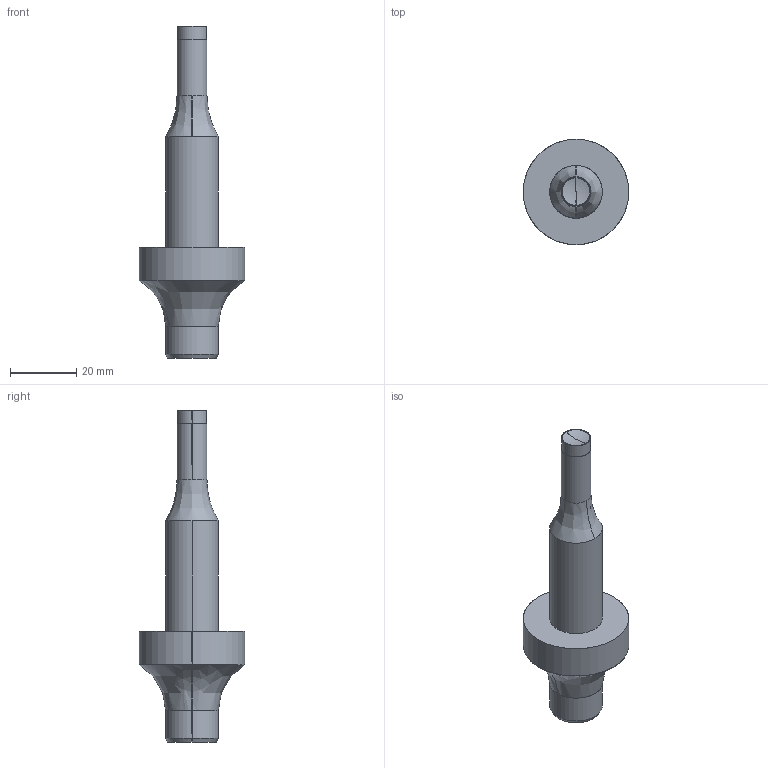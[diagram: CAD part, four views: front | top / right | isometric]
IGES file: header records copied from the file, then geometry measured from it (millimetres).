
Start section: SolidWorks IGES file using analytic representation for surfaces
Global section: file name: C:\Users\IanO\Desktop\SE0508_v2\SE0508_v2_20231218_IGES\SE0509.090-C.igs; native system: SolidWorks 2019; preprocessor: SolidWorks 2019; author: IanO; date: 231218.131545; units: millimetre
Bounding box: 31.76 x 31.76 x 100 mm (x, y, z)
Surface area: 6142.9 mm2 (no closed solid volume)
Topology: 0 solids, 0 shells, 22 faces, 336 edges, 336 vertices
Faces by surface type: revolution 14, bspline 8
